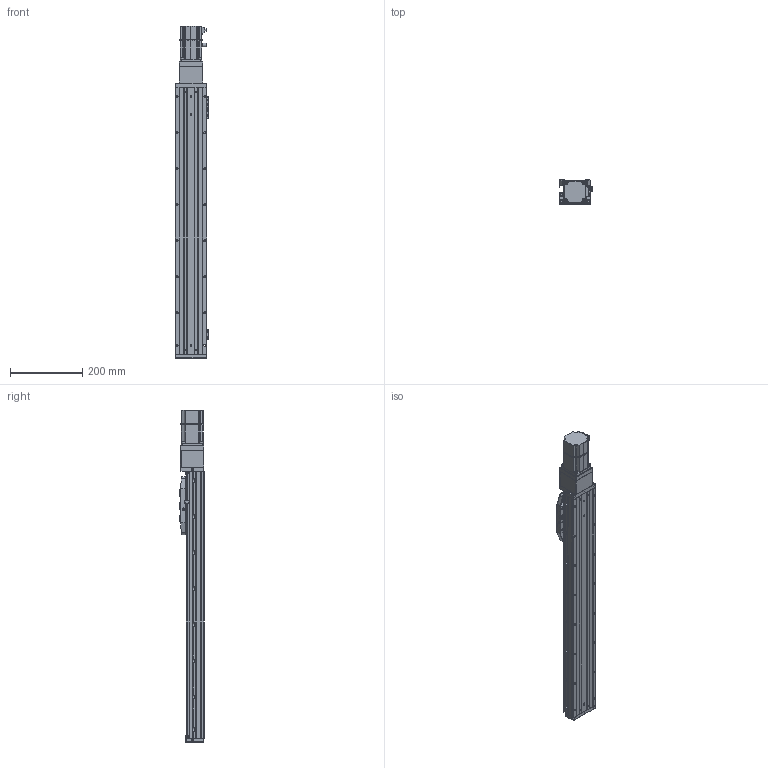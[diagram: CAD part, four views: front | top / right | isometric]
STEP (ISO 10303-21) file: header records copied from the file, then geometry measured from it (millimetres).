
FILE_DESCRIPTION (( 'STEP AP203' ), '1' );
FILE_NAME ('CTHA86-550-BC-M20-C4L.step', '2022-04-26T00:47:30', ( '微软用户' ), ( '微软中国' ), 'SwSTEP 2.0', 'SolidWorks 2020', '' );
FILE_SCHEMA (( 'CONFIG_CONTROL_DESIGN' ));
Length unit declared in the file: millimetre
Products named in the file (22): CTHA86-031; EE_SX911P_R; GBT 70.1-M3℅6; CTHA86-013; CTHA60-017; CTHA86-030; CTHA60-016; CTHA86-027; CTHA60-021; CTHA86-550-BC-M20-C4L; CTHA86-006-1_CTHA86-006-2; KTHA86-001_740; GBT77-2000 M3×3; _X2_4E0983F1_X0_200W_1; KTHA86-004; GBT 70.1-M3×20; GBT 70.3-M3℅6; KTHA86-005; GBT70.1 M5℅16; CTHA86-002; GB¨uT 70.2-M3¡Á5_M3¡Á6; GBT 70.1-M3×16
Assembly tree (65 placements, depth 2):
  CTHA86-550-BC-M20-C4L
    KTHA86-001_740
    KTHA86-004
    KTHA86-005
    GB¨uT 70.2-M3¡Á5_M3¡Á6  x10
    EE_SX911P_R  x3
    CTHA60-017  x3
    CTHA60-021  x2
    GBT77-2000 M3×3  x6
    GBT 70.1-M3×20
    GBT70.1 M5℅16  x14
    GBT 70.1-M3×16
    GBT 70.1-M3℅6  x6
    CTHA60-016  x2
    CTHA86-013
    CTHA86-027
    CTHA86-006-1_CTHA86-006-2
    _X2_4E0983F1_X0_200W_1
    GBT 70.3-M3℅6  x6
    CTHA86-002
    CTHA86-031
    CTHA86-030  x2
Bounding box: 93.82 x 68 x 920.5 mm (x, y, z)
Volume: 3106719.6 mm3; surface area: 555938.9 mm2
Topology: 67 solids, 67 shells, 2714 faces, 6471 edges, 3976 vertices
Faces by surface type: plane 1416, cylinder 697, cone 388, torus 120, bspline 69, sphere 24
Entity records: 47629 total; most frequent: CARTESIAN_POINT 8848, DIRECTION 7488, ORIENTED_EDGE 7198, EDGE_CURVE 3599, AXIS2_PLACEMENT_3D 2552, VECTOR 2384, LINE 2384, VERTEX_POINT 2254
